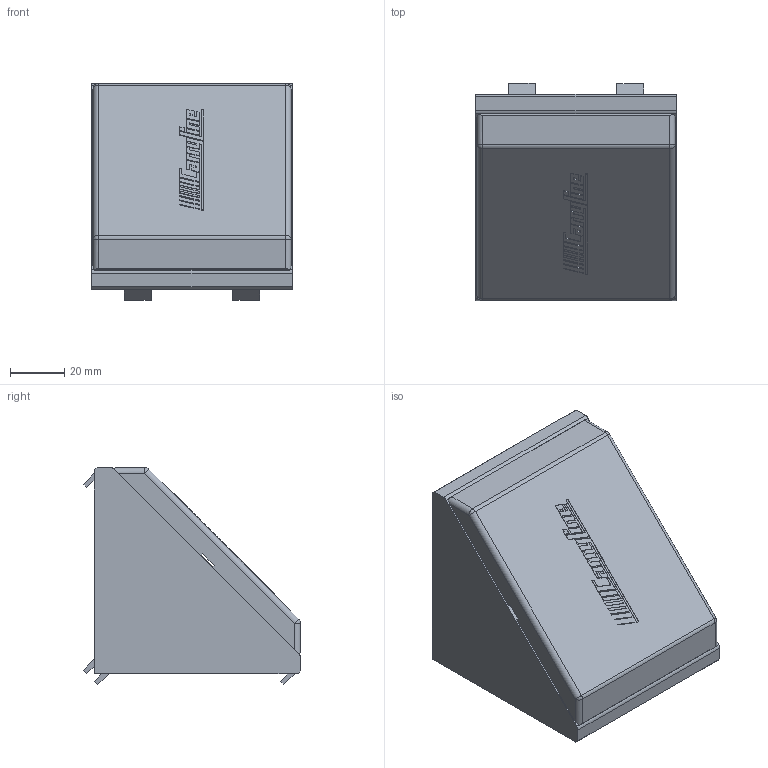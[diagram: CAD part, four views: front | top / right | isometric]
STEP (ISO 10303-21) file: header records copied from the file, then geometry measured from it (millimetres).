
FILE_DESCRIPTION(/* description */ ('BRACKET 100-4040 WITH COVER CAP'),/* implementation_level */ '2;1');
FILE_NAME(/* name */ '\\carryline.intra\privat\users\mathias\Desktop\Tillfälliga filer\100-4240.stp',/* time_stamp */ '2018-11-20T10:59:13+01:00',/* author */ ('PL'),/* organization */ (''),/* preprocessor_version */ 'ST-DEVELOPER v17',/* originating_system */ 'Autodesk Inventor 2018',/* authorisation */ '');
FILE_SCHEMA (('AUTOMOTIVE_DESIGN { 1 0 10303 214 3 1 1 }'));
Length unit declared in the file: millimetre
Products named in the file (3): 100-4240; 100-4040; 100-4140
Assembly tree (2 placements, depth 2):
  100-4240
    100-4040
    100-4140
Bounding box: 74 x 79.98 x 79.98 mm (x, y, z)
Volume: 109274.1 mm3; surface area: 56876.3 mm2
Topology: 2 solids, 2 shells, 913 faces, 2287 edges, 1382 vertices
Faces by surface type: plane 349, cylinder 289, bspline 203, sphere 36, cone 32, torus 4
Entity records: 34952 total; most frequent: CARTESIAN_POINT 14132, ORIENTED_EDGE 4534, DIRECTION 4140, EDGE_CURVE 2267, AXIS2_PLACEMENT_3D 1472, VERTEX_POINT 1382, LINE 1196, VECTOR 1196
